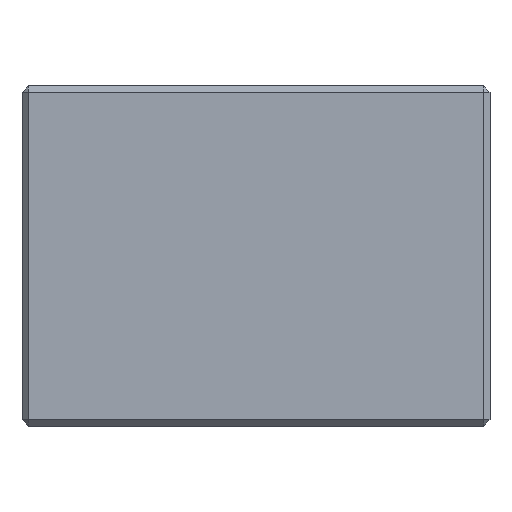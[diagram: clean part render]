
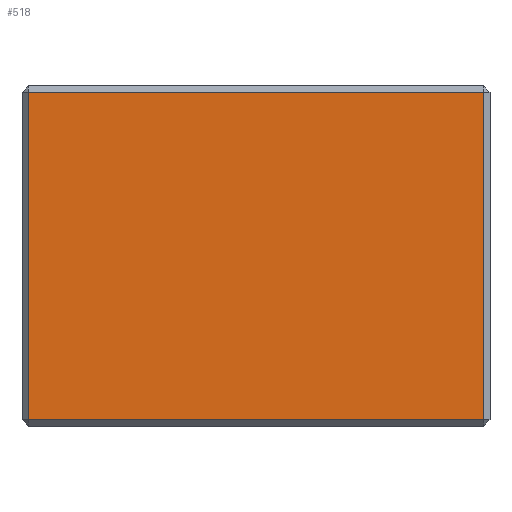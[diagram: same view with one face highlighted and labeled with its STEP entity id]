
A CAD part, front view. The second image highlights one B-rep face of the part: STEP entity #518.
In plain terms, the highlighted planar face has unit normal (0, -1, 0).
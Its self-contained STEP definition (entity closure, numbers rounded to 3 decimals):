
#138 = AXIS2_PLACEMENT_3D ( 'NONE', #316, #1225, #748 ) ;
#141 = EDGE_CURVE ( 'NONE', #604, #1894, #380, .T. ) ;
#181 = CARTESIAN_POINT ( 'NONE',  ( -10., -10., 15.7 ) ) ;
#199 = CARTESIAN_POINT ( 'NONE',  ( -9.7, -10., 15.7 ) ) ;
#316 = CARTESIAN_POINT ( 'NONE',  ( -10., -10., 16. ) ) ;
#356 = DIRECTION ( 'NONE',  ( 1., 0., 0. ) ) ;
#370 = VECTOR ( 'NONE', #1849, 1000. ) ;
#380 = LINE ( 'NONE', #1134, #890 ) ;
#386 = CARTESIAN_POINT ( 'NONE',  ( 11.7, -10., 0.3 ) ) ;
#466 = FACE_OUTER_BOUND ( 'NONE', #603, .T. ) ;
#492 = VECTOR ( 'NONE', #356, 1000. ) ;
#513 = CARTESIAN_POINT ( 'NONE',  ( -10., -10., 0.3 ) ) ;
#518 = ADVANCED_FACE ( 'NONE', ( #466 ), #1067, .F. ) ;
#520 = LINE ( 'NONE', #1123, #370 ) ;
#598 = VERTEX_POINT ( 'NONE', #386 ) ;
#603 = EDGE_LOOP ( 'NONE', ( #1075, #771, #821, #942 ) ) ;
#604 = VERTEX_POINT ( 'NONE', #199 ) ;
#672 = EDGE_CURVE ( 'NONE', #1894, #598, #1722, .T. ) ;
#681 = DIRECTION ( 'NONE',  ( 0., 0., -1. ) ) ;
#748 = DIRECTION ( 'NONE',  ( 0., 0., 1. ) ) ;
#771 = ORIENTED_EDGE ( 'NONE', *, *, #987, .T. ) ;
#812 = CARTESIAN_POINT ( 'NONE',  ( 11.7, -10., 15.7 ) ) ;
#821 = ORIENTED_EDGE ( 'NONE', *, *, #1633, .T. ) ;
#890 = VECTOR ( 'NONE', #681, 1000. ) ;
#942 = ORIENTED_EDGE ( 'NONE', *, *, #141, .T. ) ;
#987 = EDGE_CURVE ( 'NONE', #598, #1410, #520, .T. ) ;
#1067 = PLANE ( 'NONE',  #138 ) ;
#1075 = ORIENTED_EDGE ( 'NONE', *, *, #672, .T. ) ;
#1123 = CARTESIAN_POINT ( 'NONE',  ( 11.7, -10., 16. ) ) ;
#1134 = CARTESIAN_POINT ( 'NONE',  ( -9.7, -10., 16. ) ) ;
#1225 = DIRECTION ( 'NONE',  ( 0., 1., 0. ) ) ;
#1359 = LINE ( 'NONE', #181, #1648 ) ;
#1410 = VERTEX_POINT ( 'NONE', #812 ) ;
#1633 = EDGE_CURVE ( 'NONE', #1410, #604, #1359, .T. ) ;
#1648 = VECTOR ( 'NONE', #1671, 1000. ) ;
#1671 = DIRECTION ( 'NONE',  ( -1., 0., 0. ) ) ;
#1722 = LINE ( 'NONE', #513, #492 ) ;
#1769 = CARTESIAN_POINT ( 'NONE',  ( -9.7, -10., 0.3 ) ) ;
#1849 = DIRECTION ( 'NONE',  ( 0., 0., 1. ) ) ;
#1894 = VERTEX_POINT ( 'NONE', #1769 ) ;
